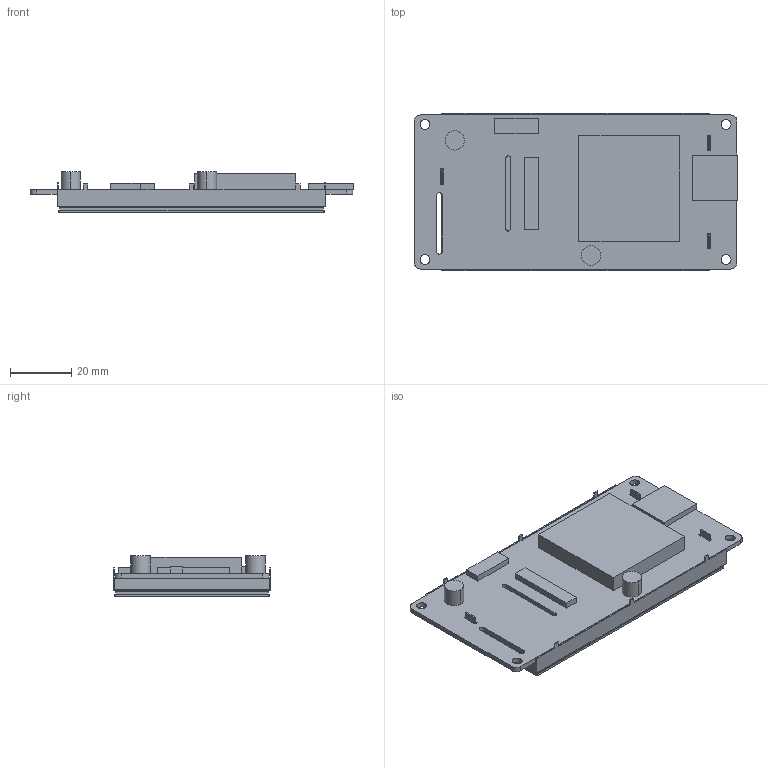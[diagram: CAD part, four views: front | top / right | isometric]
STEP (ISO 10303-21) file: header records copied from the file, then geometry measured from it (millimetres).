
FILE_DESCRIPTION((''),'2;1');
FILE_NAME('DMG80480T035-01WTC','2021-10-25T',('Administrator'),(''),'PRO/ENGINEER BY PARAMETRIC TECHNOLOGY CORPORATION, 2011310','PRO/ENGINEER BY PARAMETRIC TECHNOLOGY CORPORATION, 2011310','');
FILE_SCHEMA(('CONFIG_CONTROL_DESIGN','SHAPE_APPEARANCE_LAYERS_GROUPS'));
Length unit declared in the file: millimetre
Products named in the file (1): DMG80480T035-01WTC
Bounding box: 105.3 x 51.26 x 13.28 mm (x, y, z)
Volume: 32385.3 mm3; surface area: 32900.1 mm2
Topology: 1 solids, 1 shells, 196 faces, 558 edges, 364 vertices
Faces by surface type: plane 168, cylinder 28
Entity records: 7365 total; most frequent: CARTESIAN_POINT 1118, ORIENTED_EDGE 1116, DIRECTION 1008, EDGE_CURVE 558, VECTOR 500, LINE 500, VERTEX_POINT 364, AXIS2_PLACEMENT_3D 254
